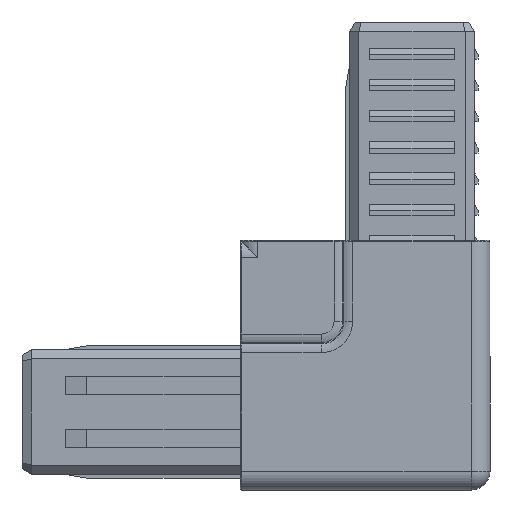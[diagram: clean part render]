
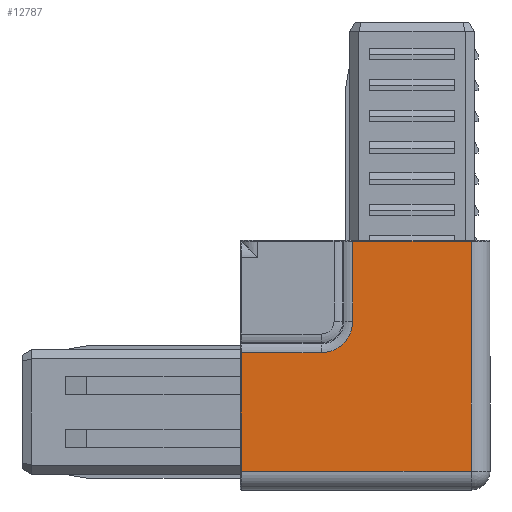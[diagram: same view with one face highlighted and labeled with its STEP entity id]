
A CAD part, left-side view. The second image highlights one B-rep face of the part: STEP entity #12787.
In plain terms, the highlighted planar face has unit normal (-1, 0, 0).
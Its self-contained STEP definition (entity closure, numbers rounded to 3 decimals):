
#84 = LINE ( 'NONE', #10872, #3116 ) ;
#125 = CARTESIAN_POINT ( 'NONE',  ( -20., 20., -9.5 ) ) ;
#152 = VERTEX_POINT ( 'NONE', #7135 ) ;
#453 = LINE ( 'NONE', #917, #10426 ) ;
#471 = ORIENTED_EDGE ( 'NONE', *, *, #12873, .T. ) ;
#917 = CARTESIAN_POINT ( 'NONE',  ( -20., 2., 27.35 ) ) ;
#1291 = FACE_OUTER_BOUND ( 'NONE', #2590, .T. ) ;
#1655 = CARTESIAN_POINT ( 'NONE',  ( -20., -17., 27.5 ) ) ;
#2221 = DIRECTION ( 'NONE',  ( 0., 1., 0. ) ) ;
#2253 = CARTESIAN_POINT ( 'NONE',  ( -20., 7.05, 9.5 ) ) ;
#2590 = EDGE_LOOP ( 'NONE', ( #14037, #6902, #471, #12194, #6545, #16731, #12143 ) ) ;
#2839 = EDGE_CURVE ( 'NONE', #3531, #6103, #8217, .T. ) ;
#2975 = CARTESIAN_POINT ( 'NONE',  ( -20., 19.85, -9.5 ) ) ;
#3064 = DIRECTION ( 'NONE',  ( 0., 0., -1. ) ) ;
#3116 = VECTOR ( 'NONE', #3064, 1000. ) ;
#3531 = VERTEX_POINT ( 'NONE', #6482 ) ;
#4160 = CARTESIAN_POINT ( 'NONE',  ( -20., 0., 7.5 ) ) ;
#4247 = EDGE_CURVE ( 'NONE', #7276, #12672, #453, .T. ) ;
#4699 = VECTOR ( 'NONE', #12082, 1000. ) ;
#4925 = AXIS2_PLACEMENT_3D ( 'NONE', #7254, #16301, #8552 ) ;
#5604 = EDGE_CURVE ( 'NONE', #152, #7532, #11211, .T. ) ;
#5919 = CARTESIAN_POINT ( 'NONE',  ( -20., -17., 27.35 ) ) ;
#6103 = VERTEX_POINT ( 'NONE', #2253 ) ;
#6207 = CARTESIAN_POINT ( 'NONE',  ( -20., 7.05, 9.5 ) ) ;
#6288 = CARTESIAN_POINT ( 'NONE',  ( -20., 2., 27.35 ) ) ;
#6482 = CARTESIAN_POINT ( 'NONE',  ( -20., 2., 14.55 ) ) ;
#6545 = ORIENTED_EDGE ( 'NONE', *, *, #14713, .T. ) ;
#6851 = DIRECTION ( 'NONE',  ( 0., 0., -1. ) ) ;
#6902 = ORIENTED_EDGE ( 'NONE', *, *, #4247, .T. ) ;
#7135 = CARTESIAN_POINT ( 'NONE',  ( -20., 19.85, 9.5 ) ) ;
#7254 = CARTESIAN_POINT ( 'NONE',  ( -20., 7.05, 14.55 ) ) ;
#7276 = VERTEX_POINT ( 'NONE', #5919 ) ;
#7354 = AXIS2_PLACEMENT_3D ( 'NONE', #4160, #14602, #6851 ) ;
#7507 = DIRECTION ( 'NONE',  ( 0., 1., 0. ) ) ;
#7532 = VERTEX_POINT ( 'NONE', #7786 ) ;
#7786 = CARTESIAN_POINT ( 'NONE',  ( -20., 19.85, -9.5 ) ) ;
#8217 = CIRCLE ( 'NONE', #4925, 5.05 ) ;
#8552 = DIRECTION ( 'NONE',  ( 0., -1., 0. ) ) ;
#9353 = EDGE_CURVE ( 'NONE', #16660, #7532, #10657, .T. ) ;
#10426 = VECTOR ( 'NONE', #2221, 1000. ) ;
#10479 = VECTOR ( 'NONE', #7507, 1000. ) ;
#10522 = DIRECTION ( 'NONE',  ( 0., 1., 0. ) ) ;
#10657 = LINE ( 'NONE', #125, #13704 ) ;
#10872 = CARTESIAN_POINT ( 'NONE',  ( -20., 2., 28.5 ) ) ;
#11211 = LINE ( 'NONE', #2975, #4699 ) ;
#11524 = LINE ( 'NONE', #1655, #14949 ) ;
#11649 = CARTESIAN_POINT ( 'NONE',  ( -20., -17., -9.5 ) ) ;
#12014 = PLANE ( 'NONE',  #7354 ) ;
#12082 = DIRECTION ( 'NONE',  ( 0., 0., -1. ) ) ;
#12090 = DIRECTION ( 'NONE',  ( 0., 0., 1. ) ) ;
#12143 = ORIENTED_EDGE ( 'NONE', *, *, #9353, .F. ) ;
#12194 = ORIENTED_EDGE ( 'NONE', *, *, #2839, .T. ) ;
#12672 = VERTEX_POINT ( 'NONE', #6288 ) ;
#12787 = ADVANCED_FACE ( 'NONE', ( #1291 ), #12014, .T. ) ;
#12873 = EDGE_CURVE ( 'NONE', #12672, #3531, #84, .T. ) ;
#13704 = VECTOR ( 'NONE', #10522, 1000. ) ;
#13767 = LINE ( 'NONE', #6207, #10479 ) ;
#14037 = ORIENTED_EDGE ( 'NONE', *, *, #15125, .T. ) ;
#14602 = DIRECTION ( 'NONE',  ( -1., 0., 0. ) ) ;
#14713 = EDGE_CURVE ( 'NONE', #6103, #152, #13767, .T. ) ;
#14949 = VECTOR ( 'NONE', #12090, 1000. ) ;
#15125 = EDGE_CURVE ( 'NONE', #16660, #7276, #11524, .T. ) ;
#16301 = DIRECTION ( 'NONE',  ( 1., 0., 0. ) ) ;
#16660 = VERTEX_POINT ( 'NONE', #11649 ) ;
#16731 = ORIENTED_EDGE ( 'NONE', *, *, #5604, .T. ) ;
